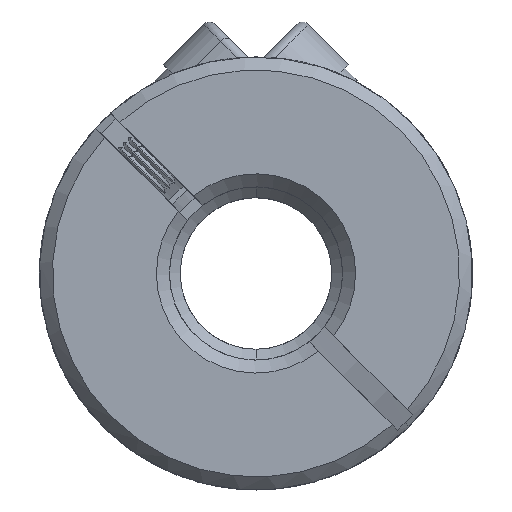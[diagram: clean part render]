
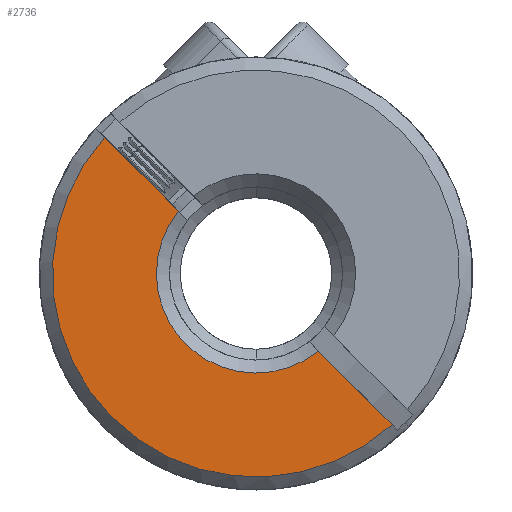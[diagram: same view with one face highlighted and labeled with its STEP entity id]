
A CAD part, front view. The second image highlights one B-rep face of the part: STEP entity #2736.
In plain terms, the highlighted planar face has unit normal (0, -1, 0).
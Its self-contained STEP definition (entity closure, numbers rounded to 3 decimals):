
#308 = CARTESIAN_POINT ( 'NONE',  ( 0.205, -11.2, -0.912 ) ) ;
#560 = DIRECTION ( 'NONE',  ( -0.707, 0., 0.707 ) ) ;
#839 = VERTEX_POINT ( 'NONE', #5563 ) ;
#1303 = ORIENTED_EDGE ( 'NONE', *, *, #10211, .T. ) ;
#1731 = CARTESIAN_POINT ( 'NONE',  ( 6.284, -11.2, -6.991 ) ) ;
#1821 = DIRECTION ( 'NONE',  ( -0.707, 0., 0.707 ) ) ;
#1911 = PLANE ( 'NONE',  #11769 ) ;
#2328 = AXIS2_PLACEMENT_3D ( 'NONE', #14348, #7386, #1821 ) ;
#2712 = VECTOR ( 'NONE', #13371, 1000. ) ;
#2729 = CARTESIAN_POINT ( 'NONE',  ( 2.88, -11.2, -3.587 ) ) ;
#2736 = ADVANCED_FACE ( 'NONE', ( #3850 ), #1911, .T. ) ;
#3850 = FACE_OUTER_BOUND ( 'NONE', #4158, .T. ) ;
#4158 = EDGE_LOOP ( 'NONE', ( #1303, #8003, #13475, #14164 ) ) ;
#4803 = VERTEX_POINT ( 'NONE', #5940 ) ;
#4935 = VERTEX_POINT ( 'NONE', #1731 ) ;
#5011 = EDGE_CURVE ( 'NONE', #4935, #7077, #14303, .T. ) ;
#5563 = CARTESIAN_POINT ( 'NONE',  ( -6.991, -11.2, 6.284 ) ) ;
#5940 = CARTESIAN_POINT ( 'NONE',  ( -3.587, -11.2, 2.88 ) ) ;
#6260 = CIRCLE ( 'NONE', #11809, 9.4 ) ;
#6762 = EDGE_CURVE ( 'NONE', #839, #4935, #6260, .T. ) ;
#7077 = VERTEX_POINT ( 'NONE', #2729 ) ;
#7386 = DIRECTION ( 'NONE',  ( 0., 1., 0. ) ) ;
#7702 = EDGE_CURVE ( 'NONE', #7077, #4803, #12558, .T. ) ;
#7917 = DIRECTION ( 'NONE',  ( -0.707, 0., 0.707 ) ) ;
#8003 = ORIENTED_EDGE ( 'NONE', *, *, #6762, .T. ) ;
#8440 = DIRECTION ( 'NONE',  ( -0.707, 0., 0.707 ) ) ;
#8640 = VECTOR ( 'NONE', #8440, 1000. ) ;
#9775 = CARTESIAN_POINT ( 'NONE',  ( -8.839, -11.2, 8.132 ) ) ;
#10211 = EDGE_CURVE ( 'NONE', #4803, #839, #10629, .T. ) ;
#10629 = LINE ( 'NONE', #308, #8640 ) ;
#10962 = DIRECTION ( 'NONE',  ( 0., -1., 0. ) ) ;
#11009 = CARTESIAN_POINT ( 'NONE',  ( 45.083, -11.2, 25.627 ) ) ;
#11769 = AXIS2_PLACEMENT_3D ( 'NONE', #11009, #10962, #560 ) ;
#11809 = AXIS2_PLACEMENT_3D ( 'NONE', #14874, #12744, #7917 ) ;
#12558 = CIRCLE ( 'NONE', #2328, 4.6 ) ;
#12744 = DIRECTION ( 'NONE',  ( 0., -1., 0. ) ) ;
#13371 = DIRECTION ( 'NONE',  ( -0.707, 0., 0.707 ) ) ;
#13475 = ORIENTED_EDGE ( 'NONE', *, *, #5011, .T. ) ;
#14164 = ORIENTED_EDGE ( 'NONE', *, *, #7702, .T. ) ;
#14303 = LINE ( 'NONE', #9775, #2712 ) ;
#14348 = CARTESIAN_POINT ( 'NONE',  ( 0., -11.2, 0. ) ) ;
#14874 = CARTESIAN_POINT ( 'NONE',  ( 0., -11.2, 0. ) ) ;
